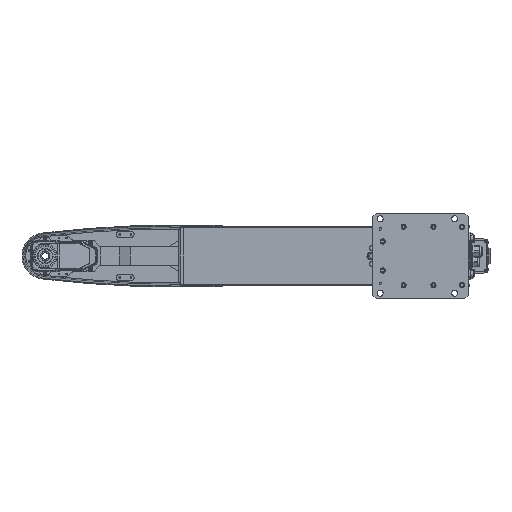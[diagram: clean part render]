
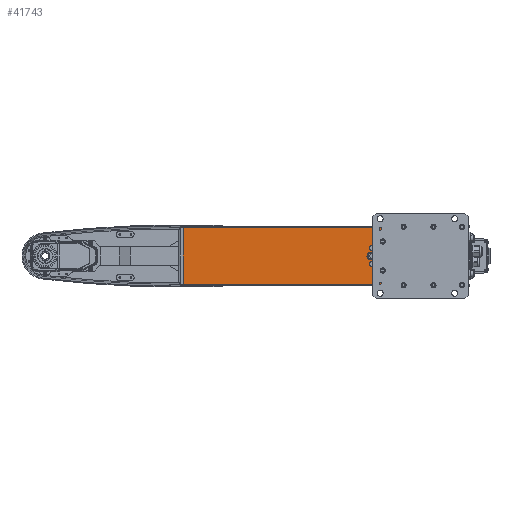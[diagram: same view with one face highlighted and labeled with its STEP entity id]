
A CAD part, front view. The second image highlights one B-rep face of the part: STEP entity #41743.
In plain terms, the highlighted planar face has unit normal (0, -1, 0).
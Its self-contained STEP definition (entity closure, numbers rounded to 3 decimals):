
#38542=CARTESIAN_POINT('',(79.5,0.,-76.));
#38569=DIRECTION('',(-1.,0.,0.));
#38570=VECTOR('',#38569,709.);
#38571=CARTESIAN_POINT('',(79.5,0.,-76.));
#38572=LINE('',#38571,#38570);
#38629=CARTESIAN_POINT('',(79.5,0.,76.));
#38650=DIRECTION('',(1.,0.,0.));
#38651=VECTOR('',#38650,709.);
#38652=CARTESIAN_POINT('',(-629.5,0.,76.));
#38653=LINE('',#38652,#38651);
#38679=DIRECTION('',(0.,0.,1.));
#38680=VECTOR('',#38679,152.);
#38681=CARTESIAN_POINT('',(79.5,0.,-76.));
#38682=LINE('',#38681,#38680);
#38683=CARTESIAN_POINT('',(-123.1,0.,21.706));
#38684=DIRECTION('',(0.,1.,0.));
#38685=DIRECTION('',(0.,0.,-1.));
#38686=AXIS2_PLACEMENT_3D('',#38683,#38684,#38685);
#38688=CARTESIAN_POINT('',(-123.1,0.,21.706));
#38689=DIRECTION('',(0.,1.,0.));
#38690=DIRECTION('',(0.,0.,1.));
#38691=AXIS2_PLACEMENT_3D('',#38688,#38689,#38690);
#38693=CARTESIAN_POINT('',(-123.1,0.,-21.706));
#38694=DIRECTION('',(0.,1.,0.));
#38695=DIRECTION('',(0.,0.,-1.));
#38696=AXIS2_PLACEMENT_3D('',#38693,#38694,#38695);
#38698=CARTESIAN_POINT('',(-123.1,0.,-21.706));
#38699=DIRECTION('',(0.,1.,0.));
#38700=DIRECTION('',(0.,0.,1.));
#38701=AXIS2_PLACEMENT_3D('',#38698,#38699,#38700);
#38703=CARTESIAN_POINT('',(-125.,0.,0.));
#38704=DIRECTION('',(0.,1.,0.));
#38705=DIRECTION('',(0.,0.,1.));
#38706=AXIS2_PLACEMENT_3D('',#38703,#38704,#38705);
#38708=CARTESIAN_POINT('',(-125.,0.,0.));
#38709=DIRECTION('',(0.,1.,0.));
#38710=DIRECTION('',(0.,0.,-1.));
#38711=AXIS2_PLACEMENT_3D('',#38708,#38709,#38710);
#38713=CARTESIAN_POINT('',(0.,0.,0.));
#38714=DIRECTION('',(0.,1.,0.));
#38715=DIRECTION('',(0.,0.,-1.));
#38716=AXIS2_PLACEMENT_3D('',#38713,#38714,#38715);
#38718=CARTESIAN_POINT('',(0.,0.,0.));
#38719=DIRECTION('',(0.,1.,0.));
#38720=DIRECTION('',(0.,0.,1.));
#38721=AXIS2_PLACEMENT_3D('',#38718,#38719,#38720);
#38732=DIRECTION('',(0.,0.,1.));
#38733=VECTOR('',#38732,152.);
#38734=CARTESIAN_POINT('',(-629.5,0.,-76.));
#38735=LINE('',#38734,#38733);
#40876=VERTEX_POINT('',#38542);
#40877=CARTESIAN_POINT('',(-629.5,0.,-76.));
#40878=VERTEX_POINT('',#40877);
#40888=CARTESIAN_POINT('',(-629.5,0.,76.));
#40889=VERTEX_POINT('',#40888);
#40910=VERTEX_POINT('',#38629);
#40966=CARTESIAN_POINT('',(-123.1,0.,15.706));
#40968=VERTEX_POINT('',#40966);
#40970=CARTESIAN_POINT('',(-123.1,0.,27.706));
#40972=VERTEX_POINT('',#40970);
#40983=CARTESIAN_POINT('',(-125.,0.,10.5));
#40985=VERTEX_POINT('',#40983);
#40987=CARTESIAN_POINT('',(-125.,0.,-10.5));
#40989=VERTEX_POINT('',#40987);
#41002=CARTESIAN_POINT('',(0.,0.,-73.));
#41004=VERTEX_POINT('',#41002);
#41006=CARTESIAN_POINT('',(0.,0.,73.));
#41008=VERTEX_POINT('',#41006);
#41030=CARTESIAN_POINT('',(-123.1,0.,-27.706));
#41032=VERTEX_POINT('',#41030);
#41034=CARTESIAN_POINT('',(-123.1,0.,-15.706));
#41036=VERTEX_POINT('',#41034);
#41707=CARTESIAN_POINT('',(-621.5,0.,-63.696));
#41708=DIRECTION('',(0.,1.,0.));
#41709=DIRECTION('',(0.,0.,1.));
#41710=AXIS2_PLACEMENT_3D('',#41707,#41708,#41709);
#41711=PLANE('',#41710);
#41712=ORIENTED_EDGE('',*,*,#41613,.T.);
#41714=ORIENTED_EDGE('',*,*,#41713,.T.);
#41715=ORIENTED_EDGE('',*,*,#41684,.T.);
#41716=ORIENTED_EDGE('',*,*,#41640,.F.);
#41717=EDGE_LOOP('',(#41712,#41714,#41715,#41716));
#41718=FACE_OUTER_BOUND('',#41717,.F.);
#41720=ORIENTED_EDGE('',*,*,#41719,.F.);
#41722=ORIENTED_EDGE('',*,*,#41721,.F.);
#41723=EDGE_LOOP('',(#41720,#41722));
#41724=FACE_BOUND('',#41723,.F.);
#41726=ORIENTED_EDGE('',*,*,#41725,.F.);
#41728=ORIENTED_EDGE('',*,*,#41727,.F.);
#41729=EDGE_LOOP('',(#41726,#41728));
#41730=FACE_BOUND('',#41729,.F.);
#41732=ORIENTED_EDGE('',*,*,#41731,.F.);
#41734=ORIENTED_EDGE('',*,*,#41733,.F.);
#41735=EDGE_LOOP('',(#41732,#41734));
#41736=FACE_BOUND('',#41735,.F.);
#41738=ORIENTED_EDGE('',*,*,#41737,.F.);
#41740=ORIENTED_EDGE('',*,*,#41739,.F.);
#41741=EDGE_LOOP('',(#41738,#41740));
#41742=FACE_BOUND('',#41741,.F.);
#38687=CIRCLE('',#38686,6.);
#38692=CIRCLE('',#38691,6.);
#38697=CIRCLE('',#38696,6.);
#38702=CIRCLE('',#38701,6.);
#38707=CIRCLE('',#38706,10.5);
#38712=CIRCLE('',#38711,10.5);
#38717=CIRCLE('',#38716,73.);
#38722=CIRCLE('',#38721,73.);
#41613=EDGE_CURVE('',#40876,#40878,#38572,.T.);
#41640=EDGE_CURVE('',#40876,#40910,#38682,.T.);
#41684=EDGE_CURVE('',#40889,#40910,#38653,.T.);
#41713=EDGE_CURVE('',#40878,#40889,#38735,.T.);
#41719=EDGE_CURVE('',#40968,#40972,#38687,.T.);
#41721=EDGE_CURVE('',#40972,#40968,#38692,.T.);
#41725=EDGE_CURVE('',#41032,#41036,#38697,.T.);
#41727=EDGE_CURVE('',#41036,#41032,#38702,.T.);
#41731=EDGE_CURVE('',#40985,#40989,#38707,.T.);
#41733=EDGE_CURVE('',#40989,#40985,#38712,.T.);
#41737=EDGE_CURVE('',#41004,#41008,#38717,.T.);
#41739=EDGE_CURVE('',#41008,#41004,#38722,.T.);
#41743=ADVANCED_FACE('',(#41718,#41724,#41730,#41736,#41742),#41711,.F.);
